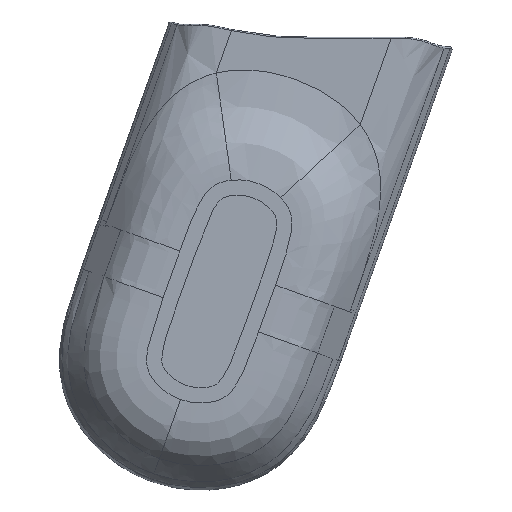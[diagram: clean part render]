
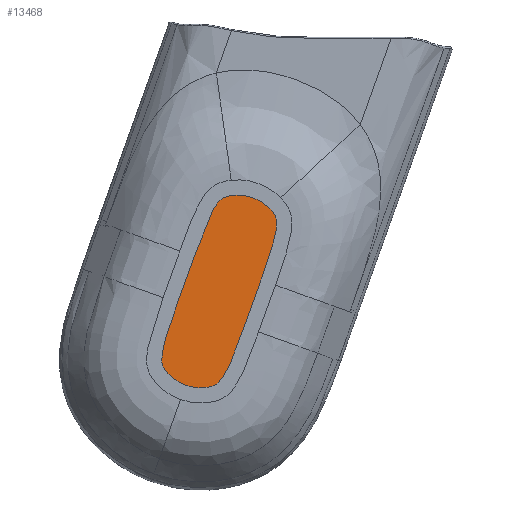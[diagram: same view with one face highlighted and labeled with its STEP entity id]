
A CAD part, left-side view. The second image highlights one B-rep face of the part: STEP entity #13468.
In plain terms, the highlighted planar face has unit normal (-1, 0, 0).
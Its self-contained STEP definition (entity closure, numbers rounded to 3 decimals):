
#1300=DIRECTION('',(0.,0.337,-0.941));
#1301=VECTOR('',#1300,16.243);
#1302=CARTESIAN_POINT('',(-275.,173.062,517.133));
#1303=LINE('',#1302,#1301);
#1304=CARTESIAN_POINT('',(-275.,175.726,544.042));
#1305=CARTESIAN_POINT('',(-275.,175.062,543.785));
#1306=CARTESIAN_POINT('',(-275.,173.842,543.246));
#1307=CARTESIAN_POINT('',(-275.,172.365,542.315));
#1308=CARTESIAN_POINT('',(-275.,171.147,541.388));
#1309=CARTESIAN_POINT('',(-275.,170.155,540.469));
#1310=CARTESIAN_POINT('',(-275.,169.345,539.558));
#1311=CARTESIAN_POINT('',(-275.,168.685,538.636));
#1312=CARTESIAN_POINT('',(-275.,168.188,537.675));
#1313=CARTESIAN_POINT('',(-275.,167.953,536.637));
#1314=CARTESIAN_POINT('',(-275.,167.911,535.558));
#1315=CARTESIAN_POINT('',(-275.,167.982,534.437));
#1316=CARTESIAN_POINT('',(-275.,168.141,533.26));
#1317=CARTESIAN_POINT('',(-275.,168.375,531.993));
#1318=CARTESIAN_POINT('',(-275.,168.679,530.623));
#1319=CARTESIAN_POINT('',(-275.,169.06,529.135));
#1320=CARTESIAN_POINT('',(-275.,169.524,527.516));
#1321=CARTESIAN_POINT('',(-275.,170.07,525.757));
#1322=CARTESIAN_POINT('',(-275.,170.701,523.85));
#1323=CARTESIAN_POINT('',(-275.,171.412,521.79));
#1324=CARTESIAN_POINT('',(-275.,172.195,519.565));
#1325=CARTESIAN_POINT('',(-275.,172.765,517.963));
#1326=CARTESIAN_POINT('',(-275.,173.062,517.133));
#1328=CARTESIAN_POINT('',(-275.,194.868,524.943));
#1329=CARTESIAN_POINT('',(-275.,194.545,525.845));
#1330=CARTESIAN_POINT('',(-275.,193.916,527.587));
#1331=CARTESIAN_POINT('',(-275.,193.031,530.016));
#1332=CARTESIAN_POINT('',(-275.,192.191,532.259));
#1333=CARTESIAN_POINT('',(-275.,191.383,534.313));
#1334=CARTESIAN_POINT('',(-275.,190.598,536.178));
#1335=CARTESIAN_POINT('',(-275.,189.837,537.848));
#1336=CARTESIAN_POINT('',(-275.,189.09,539.339));
#1337=CARTESIAN_POINT('',(-275.,188.356,540.664));
#1338=CARTESIAN_POINT('',(-275.,187.599,541.852));
#1339=CARTESIAN_POINT('',(-275.,186.761,542.92));
#1340=CARTESIAN_POINT('',(-275.,185.788,543.821));
#1341=CARTESIAN_POINT('',(-275.,184.56,544.36));
#1342=CARTESIAN_POINT('',(-275.,183.197,544.699));
#1343=CARTESIAN_POINT('',(-275.,181.681,544.882));
#1344=CARTESIAN_POINT('',(-275.,179.944,544.885));
#1345=CARTESIAN_POINT('',(-275.,177.987,544.691));
#1346=CARTESIAN_POINT('',(-275.,176.507,544.295));
#1347=CARTESIAN_POINT('',(-275.,175.726,544.042));
#1349=DIRECTION('',(0.,-0.337,0.941));
#1350=VECTOR('',#1349,16.243);
#1351=CARTESIAN_POINT('',(-275.,200.345,509.651));
#1352=LINE('',#1351,#1350);
#1353=CARTESIAN_POINT('',(-275.,197.68,482.743));
#1354=CARTESIAN_POINT('',(-275.,198.442,483.042));
#1355=CARTESIAN_POINT('',(-275.,199.832,483.672));
#1356=CARTESIAN_POINT('',(-275.,201.479,484.772));
#1357=CARTESIAN_POINT('',(-275.,202.794,485.855));
#1358=CARTESIAN_POINT('',(-275.,203.854,486.961));
#1359=CARTESIAN_POINT('',(-275.,204.689,488.076));
#1360=CARTESIAN_POINT('',(-275.,205.304,489.271));
#1361=CARTESIAN_POINT('',(-275.,205.492,490.576));
#1362=CARTESIAN_POINT('',(-275.,205.467,491.923));
#1363=CARTESIAN_POINT('',(-275.,205.301,493.332));
#1364=CARTESIAN_POINT('',(-275.,205.035,494.832));
#1365=CARTESIAN_POINT('',(-275.,204.662,496.462));
#1366=CARTESIAN_POINT('',(-275.,204.187,498.235));
#1367=CARTESIAN_POINT('',(-275.,203.608,500.176));
#1368=CARTESIAN_POINT('',(-275.,202.927,502.281));
#1369=CARTESIAN_POINT('',(-275.,202.15,504.553));
#1370=CARTESIAN_POINT('',(-275.,201.29,506.998));
#1371=CARTESIAN_POINT('',(-275.,200.668,508.747));
#1372=CARTESIAN_POINT('',(-275.,200.345,509.651));
#1520=CARTESIAN_POINT('',(-275.,197.68,482.743));
#1521=CARTESIAN_POINT('',(-275.,197.034,482.528));
#1522=CARTESIAN_POINT('',(-275.,195.802,482.181));
#1523=CARTESIAN_POINT('',(-275.,194.15,481.958));
#1524=CARTESIAN_POINT('',(-275.,192.663,481.886));
#1525=CARTESIAN_POINT('',(-275.,191.34,481.944));
#1526=CARTESIAN_POINT('',(-275.,190.165,482.105));
#1527=CARTESIAN_POINT('',(-275.,189.093,482.361));
#1528=CARTESIAN_POINT('',(-275.,188.125,482.721));
#1529=CARTESIAN_POINT('',(-275.,187.259,483.268));
#1530=CARTESIAN_POINT('',(-275.,186.545,483.993));
#1531=CARTESIAN_POINT('',(-275.,185.891,484.821));
#1532=CARTESIAN_POINT('',(-275.,185.291,485.733));
#1533=CARTESIAN_POINT('',(-275.,184.703,486.737));
#1534=CARTESIAN_POINT('',(-275.,184.108,487.852));
#1535=CARTESIAN_POINT('',(-275.,183.501,489.086));
#1536=CARTESIAN_POINT('',(-275.,182.877,490.456));
#1537=CARTESIAN_POINT('',(-275.,182.233,491.967));
#1538=CARTESIAN_POINT('',(-275.,181.567,493.624));
#1539=CARTESIAN_POINT('',(-275.,180.874,495.432));
#1540=CARTESIAN_POINT('',(-275.,180.146,497.397));
#1541=CARTESIAN_POINT('',(-275.,179.373,499.521));
#1542=CARTESIAN_POINT('',(-275.,178.822,501.05));
#1543=CARTESIAN_POINT('',(-275.,178.538,501.841));
#9100=CARTESIAN_POINT('',(-275.,200.345,509.651));
#9101=CARTESIAN_POINT('',(-275.,194.868,524.943));
#9102=VERTEX_POINT('',#9100);
#9103=VERTEX_POINT('',#9101);
#9139=CARTESIAN_POINT('',(-275.,173.062,517.133));
#9140=CARTESIAN_POINT('',(-275.,178.538,501.841));
#9141=VERTEX_POINT('',#9139);
#9142=VERTEX_POINT('',#9140);
#9154=VERTEX_POINT('',#1353);
#9164=VERTEX_POINT('',#1304);
#13455=CARTESIAN_POINT('',(-275.,163.45,459.832));
#13456=DIRECTION('',(1.,0.,0.));
#13457=DIRECTION('',(0.,0.,1.));
#13458=AXIS2_PLACEMENT_3D('',#13455,#13456,#13457);
#13459=PLANE('',#13458);
#13460=ORIENTED_EDGE('',*,*,#13446,.T.);
#13461=ORIENTED_EDGE('',*,*,#13444,.T.);
#13462=ORIENTED_EDGE('',*,*,#13442,.T.);
#13463=ORIENTED_EDGE('',*,*,#13440,.T.);
#13464=ORIENTED_EDGE('',*,*,#13450,.F.);
#13465=ORIENTED_EDGE('',*,*,#13448,.T.);
#13466=EDGE_LOOP('',(#13460,#13461,#13462,#13463,#13464,#13465));
#13467=FACE_OUTER_BOUND('',#13466,.F.);
#13468=ADVANCED_FACE('',(#13467),#13459,.F.);
#1327=B_SPLINE_CURVE_WITH_KNOTS('',3,(#1304,#1305,#1306,#1307,#1308,#1309,#1310,
#1311,#1312,#1313,#1314,#1315,#1316,#1317,#1318,#1319,#1320,#1321,#1322,#1323,
#1324,#1325,#1326),.UNSPECIFIED.,.F.,.F.,(4,1,1,1,1,1,1,1,1,1,1,1,1,1,1,1,1,1,1,
1,4),(0.,0.05,0.1,0.15,0.2,0.25,0.3,0.35,0.4,0.45,0.5,
0.55,0.6,0.65,0.7,0.75,0.8,0.85,0.9,0.95,1.),.UNSPECIFIED.);
#1348=B_SPLINE_CURVE_WITH_KNOTS('',3,(#1328,#1329,#1330,#1331,#1332,#1333,#1334,
#1335,#1336,#1337,#1338,#1339,#1340,#1341,#1342,#1343,#1344,#1345,#1346,#1347),
.UNSPECIFIED.,.F.,.F.,(4,1,1,1,1,1,1,1,1,1,1,1,1,1,1,1,1,4),(0.,
0.059,0.118,0.176,0.235,
0.294,0.353,0.412,0.471,
0.529,0.588,0.647,0.706,
0.765,0.824,0.882,0.941,1.),
.UNSPECIFIED.);
#1373=B_SPLINE_CURVE_WITH_KNOTS('',3,(#1353,#1354,#1355,#1356,#1357,#1358,#1359,
#1360,#1361,#1362,#1363,#1364,#1365,#1366,#1367,#1368,#1369,#1370,#1371,#1372),
.UNSPECIFIED.,.F.,.F.,(4,1,1,1,1,1,1,1,1,1,1,1,1,1,1,1,1,4),(0.,
0.059,0.118,0.176,0.235,
0.294,0.353,0.412,0.471,
0.529,0.588,0.647,0.706,
0.765,0.824,0.882,0.941,1.),
.UNSPECIFIED.);
#1544=B_SPLINE_CURVE_WITH_KNOTS('',3,(#1520,#1521,#1522,#1523,#1524,#1525,#1526,
#1527,#1528,#1529,#1530,#1531,#1532,#1533,#1534,#1535,#1536,#1537,#1538,#1539,
#1540,#1541,#1542,#1543),.UNSPECIFIED.,.F.,.F.,(4,1,1,1,1,1,1,1,1,1,1,1,1,1,1,1,
1,1,1,1,1,4),(0.,0.048,0.095,0.143,
0.19,0.238,0.286,0.333,
0.381,0.429,0.476,0.524,
0.571,0.619,0.667,0.714,
0.762,0.81,0.857,0.905,
0.952,1.),.UNSPECIFIED.);
#13440=EDGE_CURVE('',#9141,#9142,#1303,.T.);
#13442=EDGE_CURVE('',#9164,#9141,#1327,.T.);
#13444=EDGE_CURVE('',#9103,#9164,#1348,.T.);
#13446=EDGE_CURVE('',#9102,#9103,#1352,.T.);
#13448=EDGE_CURVE('',#9154,#9102,#1373,.T.);
#13450=EDGE_CURVE('',#9154,#9142,#1544,.T.);
